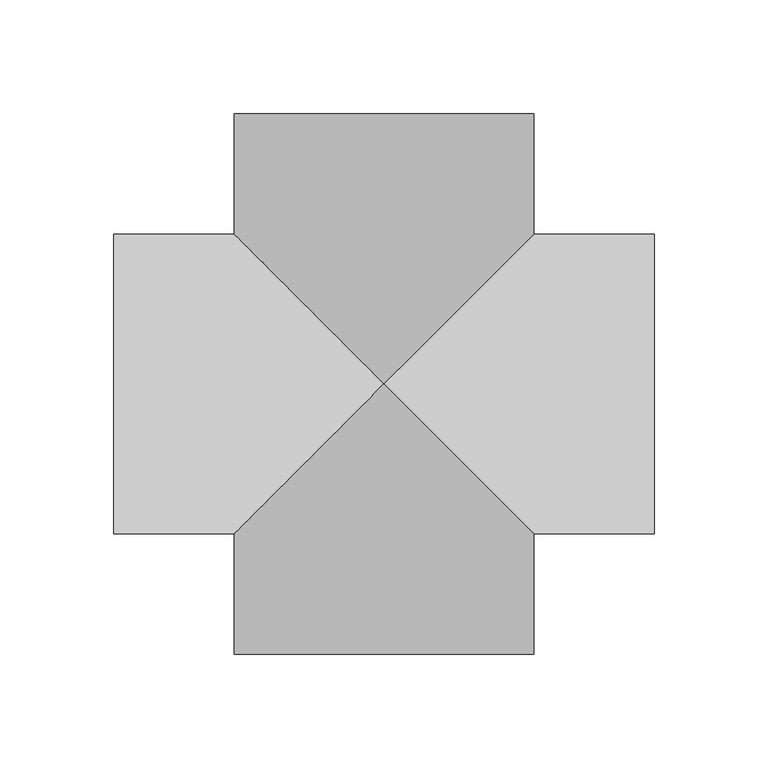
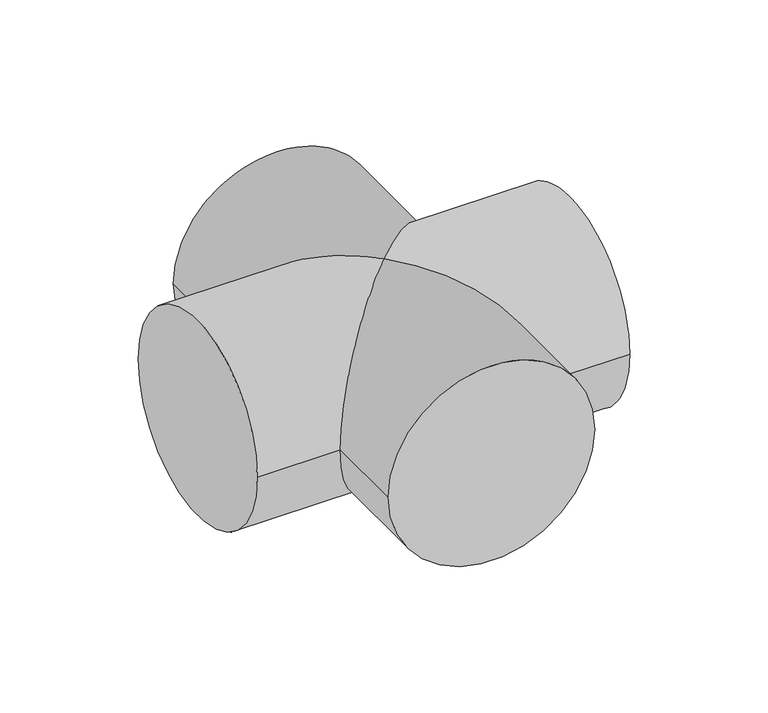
"""IFC4 building model written with IfcOpenShell, lengths in millimetres: pipe fitting geometry, 01051068 : Cruzetas."""

from ifc_helpers import new_model, si_unit, frame, origin, place, context, project, spatial, circle_curve, ellipse_curve, source, transform, mapped, element, save
from ifc_brep_helpers import plane_surface, cylinder_surface, advanced_brep


def pipe_fitting_642d0639(model_context):
    return source(origin(), model_context, "Body", "AdvancedBrep", [
        advanced_brep(
        [(-66.0, 119.0, 0.0), (66.0, 119.0, 0.0), (-66.0, -119.0, 0.0), (66.0, -119.0, 0.0), (-66.0, 66.0, 0.0), (0.0, 0.0, 66.0), (66.0, 66.0, 0.0), (66.0, -66.0, 0.0), (-66.0, -66.0, 0.0), (0.0, 0.0, -66.0), (119.0, 66.0, 0.0), (119.0, -66.0, 0.0), (-119.0, 66.0, 0.0), (-119.0, -66.0, 0.0)],
        [
            (0, 1, circle_curve(frame((0.0, 119.0, 0.0), z_axis=(0.0, 1.0, 0.0), x_axis=(1.0, 0.0, 0.0)), 66.0)),
            (1, 0, circle_curve(frame((0.0, 119.0, 0.0), z_axis=(0.0, 1.0, 0.0), x_axis=(1.0, 0.0, 0.0)), 66.0)),
            (2, 3, circle_curve(frame((0.0, -119.0, 0.0), z_axis=(0.0, -1.0, 0.0), x_axis=(1.0, 0.0, 0.0)), 66.0)),
            (3, 2, circle_curve(frame((0.0, -119.0, 0.0), z_axis=(0.0, -1.0, 0.0), x_axis=(1.0, 0.0, 0.0)), 66.0)),
            (0, 4),
            (4, 5, ellipse_curve(frame((0.0, 0.0, 0.0), z_axis=(0.7071067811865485, 0.7071067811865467, 0.0), x_axis=(-0.7071067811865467, 0.7071067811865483, 0.0)), 93.3380951, 66.0)),
            (5, 6, ellipse_curve(frame((0.0, 0.0, 0.0), z_axis=(-0.7071067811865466, 0.7071067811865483, 0.0), x_axis=(0.7071067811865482, 0.7071067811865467, 0.0)), 93.3380951, 66.0)),
            (6, 1),
            (3, 7),
            (7, 5, ellipse_curve(frame((0.0, 0.0, 0.0), z_axis=(-0.7071067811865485, -0.7071067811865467, 0.0), x_axis=(-0.7071067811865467, 0.7071067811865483, 0.0)), 93.3380951, 66.0)),
            (5, 8, ellipse_curve(frame((0.0, 0.0, 0.0), z_axis=(0.7071067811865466, -0.7071067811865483, 0.0), x_axis=(0.7071067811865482, 0.7071067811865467, 0.0)), 93.3380951, 66.0)),
            (8, 2),
            (6, 9, ellipse_curve(frame((0.0, 0.0, 0.0), z_axis=(-0.7071067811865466, 0.7071067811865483, 0.0), x_axis=(0.7071067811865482, 0.7071067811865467, 0.0)), 93.3380951, 66.0)),
            (9, 4, ellipse_curve(frame((0.0, 0.0, 0.0), z_axis=(0.7071067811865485, 0.7071067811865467, 0.0), x_axis=(-0.7071067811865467, 0.7071067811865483, 0.0)), 93.3380951, 66.0)),
            (8, 9, ellipse_curve(frame((0.0, 0.0, 0.0), z_axis=(0.7071067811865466, -0.7071067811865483, 0.0), x_axis=(0.7071067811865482, 0.7071067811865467, 0.0)), 93.3380951, 66.0)),
            (9, 7, ellipse_curve(frame((0.0, 0.0, 0.0), z_axis=(-0.7071067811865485, -0.7071067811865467, 0.0), x_axis=(-0.7071067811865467, 0.7071067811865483, 0.0)), 93.3380951, 66.0)),
            (10, 11, circle_curve(frame((119.0, 0.0, 0.0), z_axis=(1.0, 0.0, 0.0), x_axis=(0.0, -1.0, 0.0)), 66.0)),
            (11, 10, circle_curve(frame((119.0, 0.0, 0.0), z_axis=(1.0, 0.0, 0.0), x_axis=(0.0, -1.0, 0.0)), 66.0)),
            (12, 13, circle_curve(frame((-119.0, 0.0, 0.0), z_axis=(-1.0, 0.0, 0.0), x_axis=(0.0, -1.0, 0.0)), 66.0)),
            (13, 12, circle_curve(frame((-119.0, 0.0, 0.0), z_axis=(-1.0, 0.0, 0.0), x_axis=(0.0, -1.0, 0.0)), 66.0)),
            (10, 6),
            (7, 11),
            (13, 8),
            (4, 12),
        ],
        [
            plane_surface(frame((0.0, 119.0, 0.0), z_axis=(0.0, 1.0, 0.0), x_axis=(0.0, 0.0, 1.0))),
            plane_surface(frame((0.0, -119.0, 0.0), z_axis=(0.0, -1.0, 0.0), x_axis=(0.0, 0.0, 1.0))),
            cylinder_surface(frame((0.0, 119.0, 0.0), z_axis=(0.0, 1.0, 0.0), x_axis=(1.0, 0.0, 0.0)), 66.0),
            plane_surface(frame((119.0, 0.0, 0.0), z_axis=(1.0, 0.0, 0.0), x_axis=(0.0, 0.0, 1.0))),
            plane_surface(frame((-119.0, 0.0, 0.0), z_axis=(-1.0, 0.0, 0.0), x_axis=(0.0, 0.0, 1.0))),
            cylinder_surface(frame((119.0, 0.0, 0.0), z_axis=(1.0, 0.0, 0.0), x_axis=(0.0, -1.0, 0.0)), 66.0),
        ],
        [
            (0, [[1, 2]]),
            (1, [[3, 4]]),
            (2, [[-1, 5, 6, 7, 8]]),
            (2, [[-4, 9, 10, 11, 12]]),
            (2, [[-2, -8, 13, 14, -5]]),
            (2, [[-3, -12, 15, 16, -9]]),
            (3, [[17, 18]]),
            (4, [[19, 20]]),
            (5, [[-17, 21, -7, -10, 22]]),
            (5, [[-20, 23, -11, -6, 24]]),
            (5, [[-18, -22, -16, -13, -21]]),
            (5, [[-19, -24, -14, -15, -23]]),
        ],
    ),
    ])


if __name__ == "__main__":
    model = new_model("IFC4")
    model_context = context("Model", 3, world=origin())
    ifc_project = project(units=[si_unit("LENGTHUNIT", "METRE", prefix="MILLI")], contexts=[model_context])
    site = spatial("IfcSite", under=ifc_project)
    building = spatial("IfcBuilding", under=site)
    placement = place(None, origin())
    pipe_fitting_shape = pipe_fitting_642d0639(model_context)
    element("IfcPipeFitting", 1, ObjectType="01051068 : Cruzetas", at=placement, inside=building, context=model_context, shape_type="MappedRepresentation", body=[
        mapped(pipe_fitting_shape, transform((0.0, 0.0, 0.0), x_axis=(1.0, 0.0, 0.0), y_axis=(0.0, 1.0, 0.0), z_axis=(0.0, 0.0, 1.0))),
    ])
    save(model, "model.ifc")
